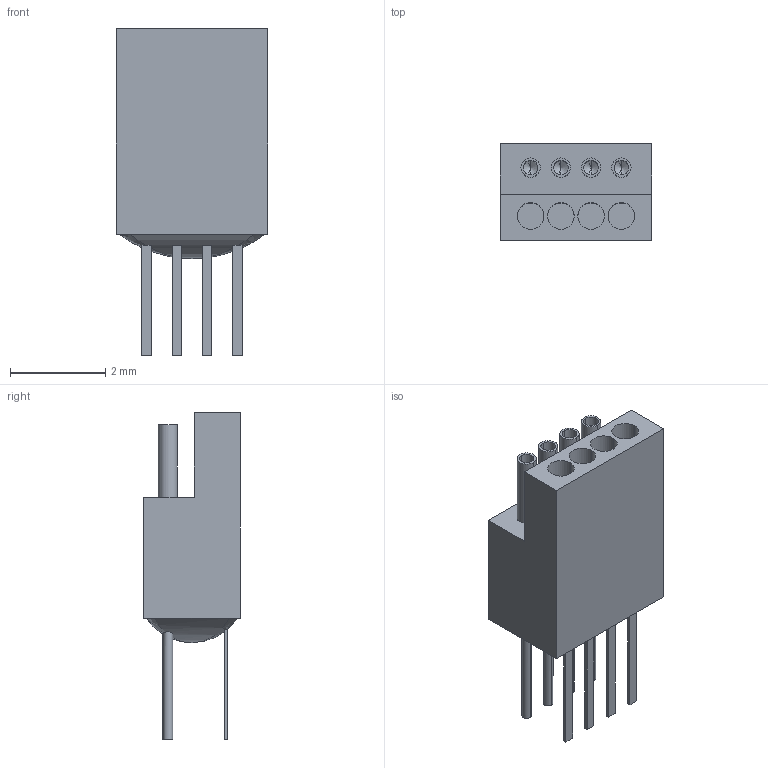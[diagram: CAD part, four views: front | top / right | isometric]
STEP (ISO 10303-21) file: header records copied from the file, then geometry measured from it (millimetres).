
FILE_DESCRIPTION (( 'STEP AP214' ), '1' );
FILE_NAME ('A79614-001 REV E.STEP', '2015-11-06T14:48:09', ( '' ), ( '' ), 'SwSTEP 2.0', 'SolidWorks 2015', '' );
FILE_SCHEMA (( 'AUTOMOTIVE_DESIGN' ));
Length unit declared in the file: inch
Products named in the file (1): A79614-001
Bounding box: 3.17 x 2.03 x 6.86 mm (x, y, z)
Volume: 19.3 mm3; surface area: 117.6 mm2
Topology: 1 solids, 1 shells, 88 faces, 210 edges, 129 vertices
Faces by surface type: plane 40, cylinder 36, cone 8, bspline 4
Entity records: 2856 total; most frequent: CARTESIAN_POINT 864, ORIENTED_EDGE 396, DIRECTION 396, EDGE_CURVE 198, AXIS2_PLACEMENT_3D 147, VERTEX_POINT 129, EDGE_LOOP 105, VECTOR 102
